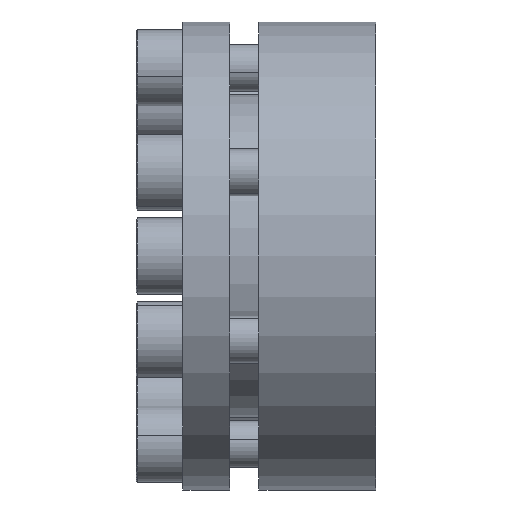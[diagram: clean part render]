
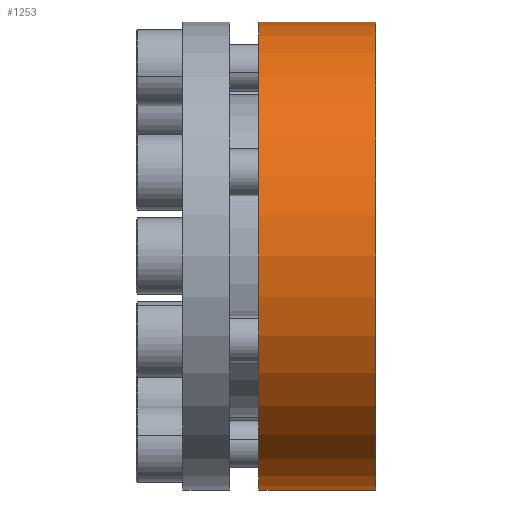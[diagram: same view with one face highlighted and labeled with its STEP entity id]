
A CAD part, front view. The second image highlights one B-rep face of the part: STEP entity #1253.
In plain terms, the highlighted cylindrical face has radius 40 mm (diameter 80 mm), a partial arc.
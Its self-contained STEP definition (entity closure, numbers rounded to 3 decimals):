
#1176 = VERTEX_POINT ( 'NONE', #3558 ) ;
#1177 = VERTEX_POINT ( 'NONE', #3557 ) ;
#1179 = EDGE_CURVE ( 'NONE', #1177, #1180, #3618, .T. ) ;
#1180 = VERTEX_POINT ( 'NONE', #3614 ) ;
#1183 = VERTEX_POINT ( 'NONE', #3608 ) ;
#1185 = EDGE_CURVE ( 'NONE', #1176, #1183, #3607, .T. ) ;
#1253 = ADVANCED_FACE ( 'NONE', ( #3737 ), #3736, .T. ) ;
#1254 = EDGE_LOOP ( 'NONE', ( #1255, #1256, #1257, #1258 ) ) ;
#1255 = ORIENTED_EDGE ( 'NONE', *, *, #1179, .F. ) ;
#1256 = ORIENTED_EDGE ( 'NONE', *, *, #1288, .T. ) ;
#1257 = ORIENTED_EDGE ( 'NONE', *, *, #1185, .T. ) ;
#1258 = ORIENTED_EDGE ( 'NONE', *, *, #1259, .F. ) ;
#1259 = EDGE_CURVE ( 'NONE', #1180, #1183, #3735, .T. ) ;
#1288 = EDGE_CURVE ( 'NONE', #1177, #1176, #3755, .T. ) ;
#3557 = CARTESIAN_POINT ( 'NONE',  ( 33., 0., -40. ) ) ;
#3558 = CARTESIAN_POINT ( 'NONE',  ( 33., 0., 40. ) ) ;
#3604 = DIRECTION ( 'NONE',  ( -1., 0., 0. ) ) ;
#3605 = VECTOR ( 'NONE', #3604, 1000. ) ;
#3606 = CARTESIAN_POINT ( 'NONE',  ( 0., 0., 40. ) ) ;
#3607 = LINE ( 'NONE', #3606, #3605 ) ;
#3608 = CARTESIAN_POINT ( 'NONE',  ( 13., 0., 40. ) ) ;
#3614 = CARTESIAN_POINT ( 'NONE',  ( 13., 0., -40. ) ) ;
#3615 = DIRECTION ( 'NONE',  ( -1., 0., 0. ) ) ;
#3616 = VECTOR ( 'NONE', #3615, 1000. ) ;
#3617 = CARTESIAN_POINT ( 'NONE',  ( 0., 0., -40. ) ) ;
#3618 = LINE ( 'NONE', #3617, #3616 ) ;
#3727 = DIRECTION ( 'NONE',  ( 0., 0., 1. ) ) ;
#3728 = DIRECTION ( 'NONE',  ( -1., 0., 0. ) ) ;
#3729 = CARTESIAN_POINT ( 'NONE',  ( 13., 0., 0. ) ) ;
#3730 = AXIS2_PLACEMENT_3D ( 'NONE', #3729, #3728, #3727 ) ;
#3731 = DIRECTION ( 'NONE',  ( 0., 0., 1. ) ) ;
#3732 = DIRECTION ( 'NONE',  ( -1., 0., 0. ) ) ;
#3733 = CARTESIAN_POINT ( 'NONE',  ( 0., 0., 0. ) ) ;
#3734 = AXIS2_PLACEMENT_3D ( 'NONE', #3733, #3732, #3731 ) ;
#3735 = CIRCLE ( 'NONE', #3730, 40. ) ;
#3736 = CYLINDRICAL_SURFACE ( 'NONE', #3734, 40. ) ;
#3737 = FACE_OUTER_BOUND ( 'NONE', #1254, .T. ) ;
#3751 = DIRECTION ( 'NONE',  ( 0., 0., 1. ) ) ;
#3752 = DIRECTION ( 'NONE',  ( -1., 0., 0. ) ) ;
#3753 = CARTESIAN_POINT ( 'NONE',  ( 33., 0., 0. ) ) ;
#3754 = AXIS2_PLACEMENT_3D ( 'NONE', #3753, #3752, #3751 ) ;
#3755 = CIRCLE ( 'NONE', #3754, 40. ) ;
